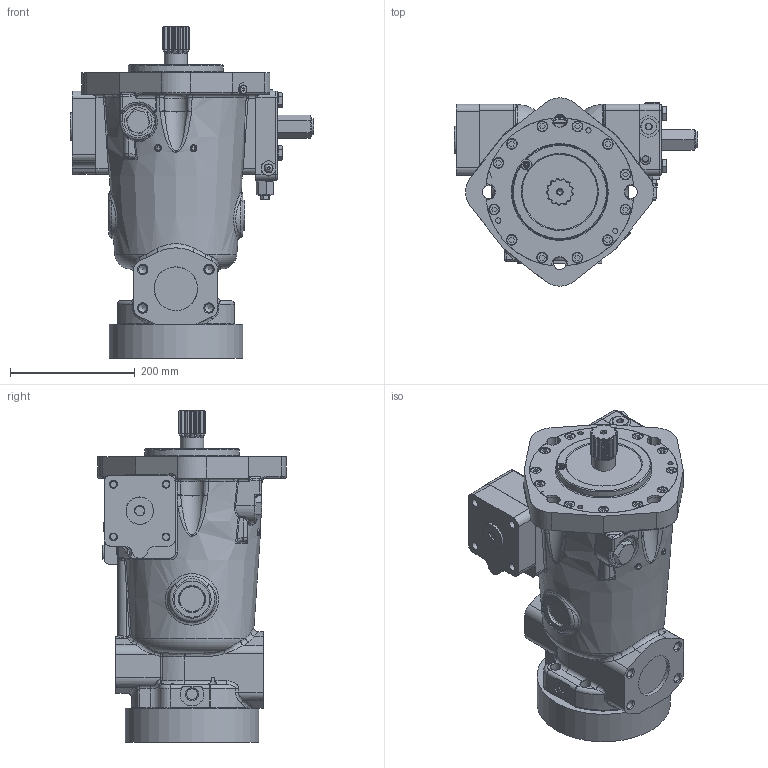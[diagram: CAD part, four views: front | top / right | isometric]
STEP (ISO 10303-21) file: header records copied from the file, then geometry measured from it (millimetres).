
FILE_DESCRIPTION(/* description */ (''),/* implementation_level */ '2;1');
FILE_NAME(/* name */ 'G:\Cadusers\Miller\3D\P09H3R1DC10B0 solid.stp',/* time_stamp */ '2016-02-09T15:02:51-05:00',/* author */ ('cma4859'),/* organization */ (''),/* preprocessor_version */ 'ST-DEVELOPER v15.2',/* originating_system */ 'Autodesk Inventor 2014',/* authorisation */ '');
FILE_SCHEMA (('AUTOMOTIVE_DESIGN { 1 0 10303 214 3 1 1 }'));
Products named in the file (1): P09H3R1DC10B0 solid
Bounding box: 391 x 302.23 x 532.76 mm (x, y, z)
Volume: 19397419.5 mm3; surface area: 1039099.7 mm2
Topology: 49 solids, 49 shells, 1834 faces, 4195 edges, 2553 vertices
Faces by surface type: plane 630, cylinder 468, cone 285, bspline 274, torus 158, sphere 19
Full cylindrical faces by diameter (mm): 1.5 x2, 2.184 x8, 2.507 x1, 3.962 x2, 4.78 x1, 5.563 x2, 6 x5, 6.35 x4, 6.747 x1, 6.782 x1, 6.985 x1, 7.112 x1, 7.295 x1, 7.31 x1, 7.798 x1, 7.938 x3, 8.382 x3, 9.246 x4, 9.25 x1, 9.52 x2, 9.6 x4, 10.16 x12, 10.319 x12, 10.716 x8, 11.1 x3, 11.112 x7, 11.852 x4, 11.887 x1, 12 x4, 12.217 x2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
Entity records: 60025 total; most frequent: CARTESIAN_POINT 22284, DIRECTION 7687, ORIENTED_EDGE 7274, EDGE_CURVE 3637, AXIS2_PLACEMENT_3D 3266, EDGE_LOOP 2491, VERTEX_POINT 2460, FACE_OUTER_BOUND 1834
